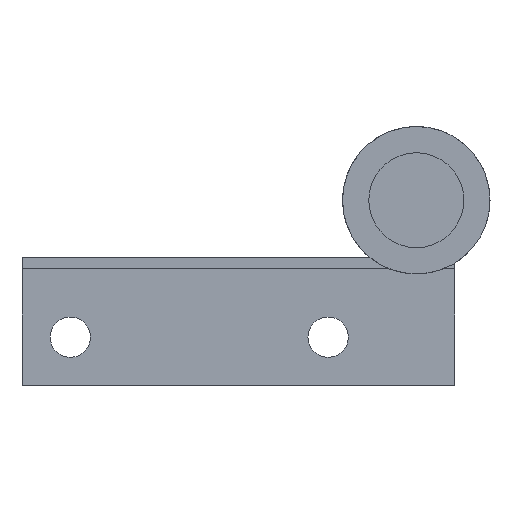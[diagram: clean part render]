
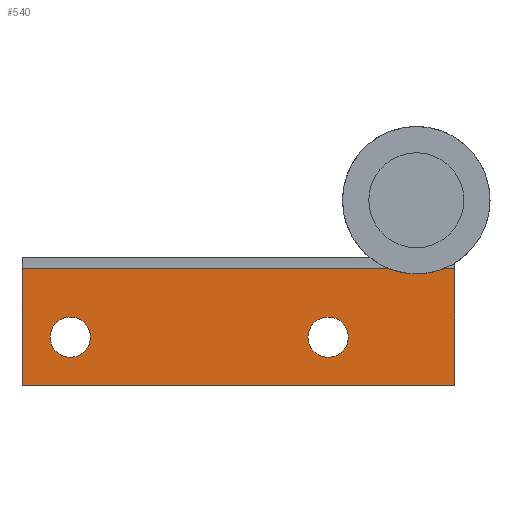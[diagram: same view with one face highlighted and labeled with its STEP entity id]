
A CAD part, front view. The second image highlights one B-rep face of the part: STEP entity #540.
In plain terms, the highlighted planar face has unit normal (0, -1, 0).
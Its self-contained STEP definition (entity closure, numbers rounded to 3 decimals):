
#116 = CARTESIAN_POINT ( 'NONE',  ( -42.95, 629.2, -17. ) ) ;
#118 = DIRECTION ( 'NONE',  ( 0., 1., 0. ) ) ;
#119 = DIRECTION ( 'NONE',  ( 1., 0., 0. ) ) ;
#160 = EDGE_CURVE ( 'NONE', #221, #229, #667, .T. ) ;
#163 = EDGE_CURVE ( 'NONE', #248, #249, #871, .T. ) ;
#166 = EDGE_CURVE ( 'NONE', #266, #273, #967, .T. ) ;
#170 = EDGE_CURVE ( 'NONE', #229, #221, #626, .T. ) ;
#203 = EDGE_CURVE ( 'NONE', #266, #220, #643, .T. ) ;
#207 = EDGE_CURVE ( 'NONE', #220, #287, #753, .T. ) ;
#208 = EDGE_CURVE ( 'NONE', #273, #287, #782, .T. ) ;
#220 = VERTEX_POINT ( 'NONE', #454 ) ;
#221 = VERTEX_POINT ( 'NONE', #451 ) ;
#229 = VERTEX_POINT ( 'NONE', #461 ) ;
#248 = VERTEX_POINT ( 'NONE', #480 ) ;
#249 = VERTEX_POINT ( 'NONE', #481 ) ;
#266 = VERTEX_POINT ( 'NONE', #498 ) ;
#273 = VERTEX_POINT ( 'NONE', #503 ) ;
#287 = VERTEX_POINT ( 'NONE', #506 ) ;
#318 = CARTESIAN_POINT ( 'NONE',  ( -10.95, 629.2, -17. ) ) ;
#320 = DIRECTION ( 'NONE',  ( 0., 1., 0. ) ) ;
#321 = DIRECTION ( 'NONE',  ( 1., 0., 0. ) ) ;
#322 = CARTESIAN_POINT ( 'NONE',  ( -42.95, 629.2, -17. ) ) ;
#328 = DIRECTION ( 'NONE',  ( 0., 1., 0. ) ) ;
#329 = DIRECTION ( 'NONE',  ( 1., 0., 0. ) ) ;
#336 = CARTESIAN_POINT ( 'NONE',  ( 9.15, 629.2, -8.5 ) ) ;
#337 = DIRECTION ( 'NONE',  ( -1., 0., 0. ) ) ;
#343 = CARTESIAN_POINT ( 'NONE',  ( -10.95, 629.2, -17. ) ) ;
#347 = DIRECTION ( 'NONE',  ( 0., 1., 0. ) ) ;
#348 = DIRECTION ( 'NONE',  ( 1., 0., 0. ) ) ;
#424 = CARTESIAN_POINT ( 'NONE',  ( 4.75, 629.2, -23. ) ) ;
#425 = DIRECTION ( 'NONE',  ( 0., 0., -1. ) ) ;
#435 = CARTESIAN_POINT ( 'NONE',  ( 9.15, 629.2, -23. ) ) ;
#436 = DIRECTION ( 'NONE',  ( -1., 0., 0. ) ) ;
#437 = CARTESIAN_POINT ( 'NONE',  ( -48.95, 629.2, -23. ) ) ;
#438 = DIRECTION ( 'NONE',  ( 0., 0., -1. ) ) ;
#451 = CARTESIAN_POINT ( 'NONE',  ( -13.45, 629.2, -17. ) ) ;
#454 = CARTESIAN_POINT ( 'NONE',  ( 4.75, 629.2, -23. ) ) ;
#461 = CARTESIAN_POINT ( 'NONE',  ( -8.45, 629.2, -17. ) ) ;
#480 = CARTESIAN_POINT ( 'NONE',  ( -45.45, 629.2, -17. ) ) ;
#481 = CARTESIAN_POINT ( 'NONE',  ( -40.45, 629.2, -17. ) ) ;
#498 = CARTESIAN_POINT ( 'NONE',  ( 4.75, 629.2, -8.5 ) ) ;
#503 = CARTESIAN_POINT ( 'NONE',  ( -48.95, 629.2, -8.5 ) ) ;
#506 = CARTESIAN_POINT ( 'NONE',  ( -48.95, 629.2, -23. ) ) ;
#520 = PLANE ( 'NONE',  #579 ) ;
#521 = CARTESIAN_POINT ( 'NONE',  ( 9.15, 629.2, -23. ) ) ;
#522 = DIRECTION ( 'NONE',  ( 0., 1., 0. ) ) ;
#523 = DIRECTION ( 'NONE',  ( 1., 0., 0. ) ) ;
#540 = ADVANCED_FACE ( 'NONE', ( #657, #762, #970 ), #520, .F. ) ;
#579 = AXIS2_PLACEMENT_3D ( 'NONE', #521, #522, #523 ) ;
#593 = AXIS2_PLACEMENT_3D ( 'NONE', #322, #328, #329 ) ;
#594 = AXIS2_PLACEMENT_3D ( 'NONE', #318, #320, #321 ) ;
#616 = EDGE_CURVE ( 'NONE', #249, #248, #702, .T. ) ;
#620 = AXIS2_PLACEMENT_3D ( 'NONE', #343, #347, #348 ) ;
#626 = CIRCLE ( 'NONE', #620, 2.5 ) ;
#643 = LINE ( 'NONE', #424, #644 ) ;
#644 = VECTOR ( 'NONE', #425, 1000. ) ;
#657 = FACE_BOUND ( 'NONE', #1007, .T. ) ;
#667 = CIRCLE ( 'NONE', #594, 2.5 ) ;
#702 = CIRCLE ( 'NONE', #1058, 2.5 ) ;
#753 = LINE ( 'NONE', #435, #893 ) ;
#762 = FACE_BOUND ( 'NONE', #886, .T. ) ;
#782 = LINE ( 'NONE', #437, #1013 ) ;
#823 = ORIENTED_EDGE ( 'NONE', *, *, #207, .F. ) ;
#830 = ORIENTED_EDGE ( 'NONE', *, *, #203, .F. ) ;
#845 = ORIENTED_EDGE ( 'NONE', *, *, #160, .T. ) ;
#862 = ORIENTED_EDGE ( 'NONE', *, *, #166, .T. ) ;
#871 = CIRCLE ( 'NONE', #593, 2.5 ) ;
#884 = EDGE_LOOP ( 'NONE', ( #862, #959, #823, #830 ) ) ;
#886 = EDGE_LOOP ( 'NONE', ( #919, #990 ) ) ;
#893 = VECTOR ( 'NONE', #436, 1000. ) ;
#919 = ORIENTED_EDGE ( 'NONE', *, *, #163, .T. ) ;
#944 = ORIENTED_EDGE ( 'NONE', *, *, #170, .T. ) ;
#959 = ORIENTED_EDGE ( 'NONE', *, *, #208, .T. ) ;
#966 = VECTOR ( 'NONE', #337, 1000. ) ;
#967 = LINE ( 'NONE', #336, #966 ) ;
#970 = FACE_OUTER_BOUND ( 'NONE', #884, .T. ) ;
#990 = ORIENTED_EDGE ( 'NONE', *, *, #616, .T. ) ;
#1007 = EDGE_LOOP ( 'NONE', ( #845, #944 ) ) ;
#1013 = VECTOR ( 'NONE', #438, 1000. ) ;
#1058 = AXIS2_PLACEMENT_3D ( 'NONE', #116, #118, #119 ) ;
